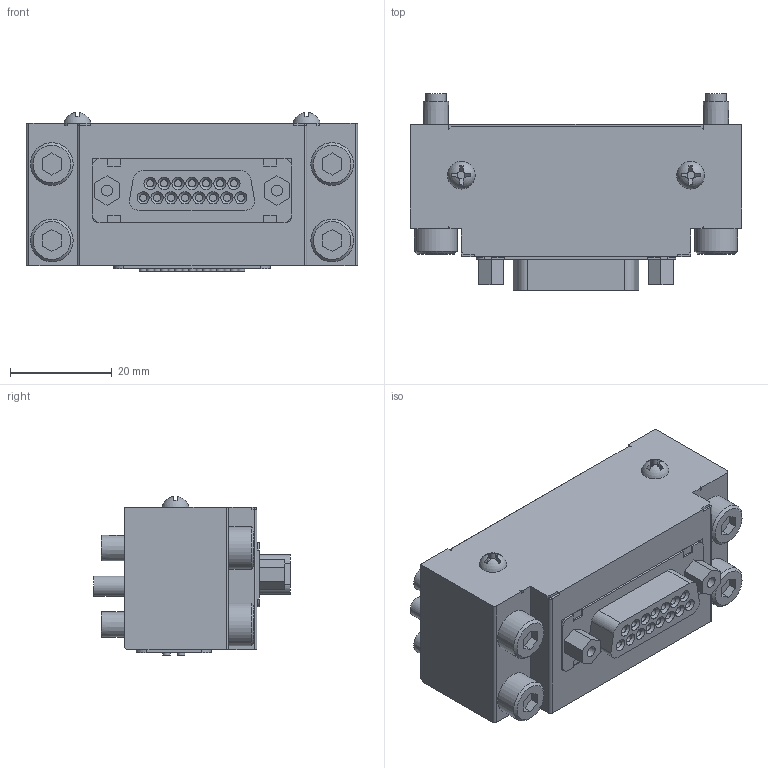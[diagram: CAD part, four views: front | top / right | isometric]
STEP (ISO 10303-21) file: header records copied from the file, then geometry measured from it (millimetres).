
FILE_DESCRIPTION(('STEP AP214'),'1');
FILE_NAME('KHB-45_300RS-D315C_ver1.stp','2026-04-27T05:35:49',(' '),(' '),'Spatial InterOp 3D',' ',' ');
FILE_SCHEMA(('AUTOMOTIVE_DESIGN { 1 0 10303 214 1 1 1 1 }'));
Length unit declared in the file: millimetre
Products named in the file (18): KHB-45~300RS-D315C_ver1; パーツ1
Assembly tree (17 placements, depth 2):
  KHB-45~300RS-D315C_ver1
    パーツ1
    パーツ1
    パーツ1
    パーツ1
    パーツ1
    パーツ1
    パーツ1
    パーツ1
    パーツ1
    パーツ1
    パーツ1
    パーツ1
    パーツ1
    パーツ1
    パーツ1
    パーツ1
    パーツ1
Bounding box: 65 x 38.54 x 31.03 mm (x, y, z)
Volume: 46461.5 mm3; surface area: 15104 mm2
Topology: 17 solids, 22 shells, 426 faces, 952 edges, 630 vertices
Faces by surface type: plane 271, cylinder 113, cone 40, sphere 2
Full cylindrical faces by diameter (mm): 0.7 x15, 1.4 x15, 1.5 x15, 2 x15, 2.15 x2, 2.5 x2, 3.5 x2, 4 x3, 5 x4, 5.5 x4, 8.385 x4
Entity records: 14612 total; most frequent: DIRECTION 1923, CARTESIAN_POINT 1900, ORIENTED_EDGE 1544, EDGE_CURVE 772, AXIS2_PLACEMENT_3D 715, EDGE_LOOP 613, VERTEX_POINT 588, FACE_OUTER_BOUND 509
